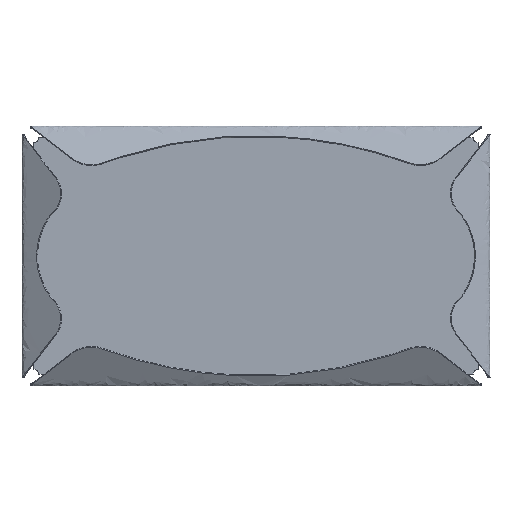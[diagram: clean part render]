
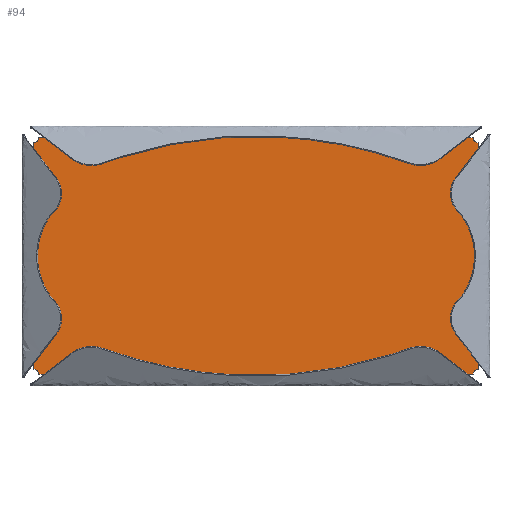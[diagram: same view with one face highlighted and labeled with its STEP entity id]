
A CAD part, top view. The second image highlights one B-rep face of the part: STEP entity #94.
In plain terms, the highlighted planar face has unit normal (0, 0, 1).
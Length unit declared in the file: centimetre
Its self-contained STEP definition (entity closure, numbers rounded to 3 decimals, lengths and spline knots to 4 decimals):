
#94=ADVANCED_FACE($,(#188),#1177,.T.);
#188=FACE_OUTER_BOUND($,#282,.T.);
#282=EDGE_LOOP($,(#448,#449));
#448=ORIENTED_EDGE($,*,*,#828,.T.);
#449=ORIENTED_EDGE($,*,*,#831,.T.);
#828=EDGE_CURVE($,#1027,#1029,#1195,.T.);
#831=EDGE_CURVE($,#1029,#1027,#1197,.T.);
#1027=VERTEX_POINT($,#1927);
#1029=VERTEX_POINT($,#1929);
#1177=PLANE($,#1495);
#1195=(
BOUNDED_CURVE()
B_SPLINE_CURVE(2,(#1803,#1804,#1805,#1806,#1807,#1808,#1809,#1810,#1811,
#1812,#1813,#1814,#1815,#1816,#1817,#1818,#1819),.UNSPECIFIED.,.F.,.F.)
B_SPLINE_CURVE_WITH_KNOTS((3,2,2,2,2,2,2,2,3),(231.1425,231.4367,
309.4567,309.7508,312.2177,312.5118,462.5318,
462.826,465.2928),.UNSPECIFIED.)
CURVE()
GEOMETRIC_REPRESENTATION_ITEM()
RATIONAL_B_SPLINE_CURVE((1.,0.742,1.,1.,1.,0.742,
1.,0.774,1.,0.742,1.,1.,1.,0.742,1.,
0.774,1.))
REPRESENTATION_ITEM($)
);
#1197=(
BOUNDED_CURVE()
B_SPLINE_CURVE(2,(#1839,#1840,#1841,#1842,#1843,#1844,#1845,#1846,#1847,
#1848,#1849,#1850,#1851,#1852,#1853,#1854,#1855),.UNSPECIFIED.,.F.,.F.)
B_SPLINE_CURVE_WITH_KNOTS((3,2,2,2,2,2,2,2,3),(465.2928,465.5869,
543.607,543.9011,546.3679,546.6621,696.6821,
696.9762,699.4431),.UNSPECIFIED.)
CURVE()
GEOMETRIC_REPRESENTATION_ITEM()
RATIONAL_B_SPLINE_CURVE((1.,0.742,1.,1.,1.,0.742,
1.,0.774,1.,0.742,1.,1.,1.,0.742,1.,
0.774,1.))
REPRESENTATION_ITEM($)
);
#1495=AXIS2_PLACEMENT_3D($,#1891,#1512,$);
#1512=DIRECTION($,(0.,0.,1.));
#1803=CARTESIAN_POINT($,(0.18,80.209,1.1));
#1804=CARTESIAN_POINT($,(0.,80.1909,1.1));
#1805=CARTESIAN_POINT($,(0.,80.01,1.1));
#1806=CARTESIAN_POINT($,(0.,41.,1.1));
#1807=CARTESIAN_POINT($,(0.,1.99,1.1));
#1808=CARTESIAN_POINT($,(0.,1.8091,1.1));
#1809=CARTESIAN_POINT($,(0.18,1.791,1.1));
#1810=CARTESIAN_POINT($,(1.6439,1.6439,1.1));
#1811=CARTESIAN_POINT($,(1.791,0.18,1.1));
#1812=CARTESIAN_POINT($,(1.8091,0.,1.1));
#1813=CARTESIAN_POINT($,(1.99,0.,1.1));
#1814=CARTESIAN_POINT($,(77.,0.,1.1));
#1815=CARTESIAN_POINT($,(152.01,0.,1.1));
#1816=CARTESIAN_POINT($,(152.1909,0.,1.1));
#1817=CARTESIAN_POINT($,(152.209,0.18,1.1));
#1818=CARTESIAN_POINT($,(152.3561,1.6439,1.1));
#1819=CARTESIAN_POINT($,(153.82,1.791,1.1));
#1839=CARTESIAN_POINT($,(153.82,1.791,1.1));
#1840=CARTESIAN_POINT($,(154.,1.8091,1.1));
#1841=CARTESIAN_POINT($,(154.,1.99,1.1));
#1842=CARTESIAN_POINT($,(154.,41.,1.1));
#1843=CARTESIAN_POINT($,(154.,80.01,1.1));
#1844=CARTESIAN_POINT($,(154.,80.1909,1.1));
#1845=CARTESIAN_POINT($,(153.82,80.209,1.1));
#1846=CARTESIAN_POINT($,(152.3561,80.3561,1.1));
#1847=CARTESIAN_POINT($,(152.209,81.82,1.1));
#1848=CARTESIAN_POINT($,(152.1909,82.,1.1));
#1849=CARTESIAN_POINT($,(152.01,82.,1.1));
#1850=CARTESIAN_POINT($,(77.,82.,1.1));
#1851=CARTESIAN_POINT($,(1.99,82.,1.1));
#1852=CARTESIAN_POINT($,(1.8091,82.,1.1));
#1853=CARTESIAN_POINT($,(1.791,81.82,1.1));
#1854=CARTESIAN_POINT($,(1.6439,80.3561,1.1));
#1855=CARTESIAN_POINT($,(0.18,80.209,1.1));
#1891=CARTESIAN_POINT($,(0.,0.,1.1));
#1927=CARTESIAN_POINT($,(0.18,80.209,1.1));
#1929=CARTESIAN_POINT($,(153.82,1.791,1.1));
